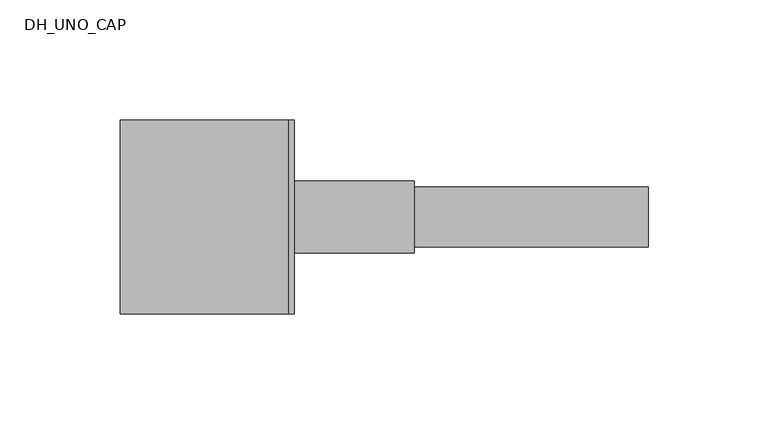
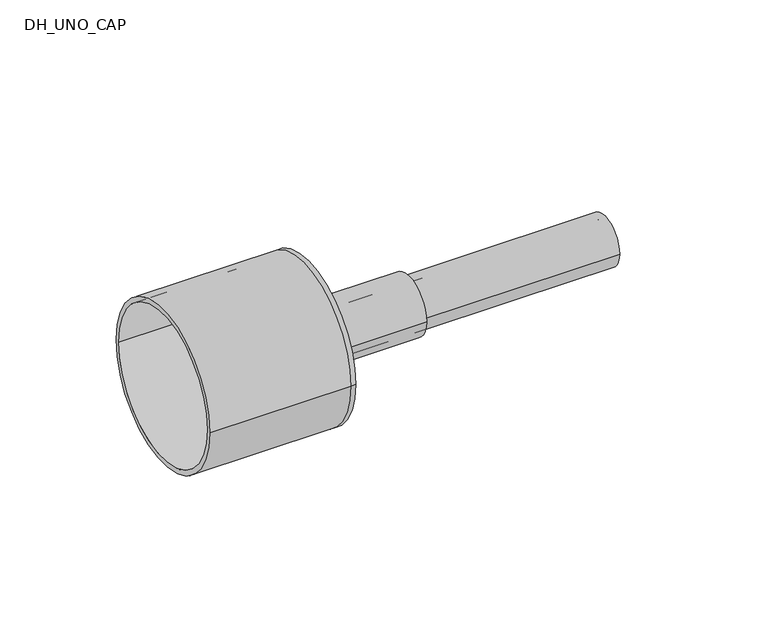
"""IFC4 building model written with IfcOpenShell, lengths in millimetres: pipe fitting geometry, DH_UNO_CAP : RAUTHERMEX UNO 7.4 DW - Schrink Cap."""

from ifc_helpers import new_model, si_unit, point, frame, origin, origin_2d, place, context, project, spatial, polyline, circle_curve, trimmed, segment, composite_curve, outline, extrude, source, transform, mapped, element, save
from ifc_brep_helpers import plane_surface, cylinder_surface, revolved_surface, advanced_brep


def dh_uno_cap_3b9207c0(model_context):
    return source(origin(), model_context, "Body", "SolidModel", [
        extrude(outline(composite_curve([segment(trimmed(circle_curve(origin_2d(), 12.5), [point((-12.5, 0.0))], [point((12.5, 0.0))], False, "CARTESIAN"), True, "CONTINUOUS"), segment(trimmed(circle_curve(origin_2d(), 12.5), [point((12.5, 0.0))], [point((-12.5, 0.0))], False, "CARTESIAN"), True, "CONTINUOUS")], self_intersect=False), holes=[composite_curve([segment(trimmed(circle_curve(origin_2d(), 9.0), [point((-9.0, 0.0))], [point((9.0, 0.0))], True, "CARTESIAN"), True, "CONTINUOUS"), segment(trimmed(circle_curve(origin_2d(), 9.0), [point((9.0, 0.0))], [point((-9.0, 0.0))], True, "CARTESIAN"), True, "CONTINUOUS")], self_intersect=False)]), frame((0.0, 0.0, 0.0), z_axis=(1.0, 0.0, 0.0), x_axis=(0.0, 1.0, 0.0)), (0.0, 0.0, 1.0), 150.0),
        advanced_brep(
        [(-70.0, -40.5, 0.0), (-70.0, 40.5, 0.0), (-70.0, -38.0, 0.0), (-70.0, 38.0, 0.0), (0.0, -38.0, 0.0), (0.0, 38.0, 0.0), (0.0, -40.5, 0.0), (0.0, 40.5, 0.0), (0.0, 12.5, 0.0), (0.0, -12.5, 0.0), (2.5, -40.5, 0.0), (2.5, 40.5, 0.0), (2.5, -12.5, 0.0), (2.5, 12.5, 0.0)],
        [
            (0, 1, circle_curve(frame((-70.0, 0.0, 0.0), z_axis=(-1.0, 0.0, 0.0), x_axis=(0.0, 1.0, 0.0)), 40.5)),
            (1, 0, circle_curve(frame((-70.0, 0.0, 0.0), z_axis=(-1.0, 0.0, 0.0), x_axis=(0.0, 1.0, 0.0)), 40.5)),
            (2, 3, circle_curve(frame((-70.0, 0.0, 0.0), z_axis=(1.0, 0.0, 0.0), x_axis=(0.0, 1.0, 0.0)), 38.0)),
            (3, 2, circle_curve(frame((-70.0, 0.0, 0.0), z_axis=(1.0, 0.0, 0.0), x_axis=(0.0, 1.0, 0.0)), 38.0)),
            (2, 4),
            (4, 5, circle_curve(frame((0.0, 0.0, 0.0), z_axis=(1.0, 0.0, 0.0), x_axis=(0.0, 1.0, 0.0)), 38.0)),
            (5, 3),
            (5, 4, circle_curve(frame((0.0, 0.0, 0.0), z_axis=(1.0, 0.0, 0.0), x_axis=(0.0, 1.0, 0.0)), 38.0)),
            (0, 6),
            (6, 7, circle_curve(frame((0.0, 0.0, 0.0), z_axis=(-1.0, 0.0, 0.0), x_axis=(0.0, 1.0, 0.0)), 40.5)),
            (7, 1),
            (7, 6, circle_curve(frame((0.0, 0.0, 0.0), z_axis=(-1.0, 0.0, 0.0), x_axis=(0.0, 1.0, 0.0)), 40.5)),
            (8, 9, circle_curve(frame((0.0, 0.0, 0.0), z_axis=(1.0, 0.0, 0.0), x_axis=(0.0, 1.0, 0.0)), 12.5)),
            (9, 8, circle_curve(frame((0.0, 0.0, 0.0), z_axis=(1.0, 0.0, 0.0), x_axis=(0.0, 1.0, 0.0)), 12.5)),
            (10, 11, circle_curve(frame((2.5, 0.0, 0.0), z_axis=(1.0, 0.0, 0.0), x_axis=(0.0, 1.0, 0.0)), 40.5)),
            (11, 10, circle_curve(frame((2.5, 0.0, 0.0), z_axis=(1.0, 0.0, 0.0), x_axis=(0.0, 1.0, 0.0)), 40.5)),
            (12, 13, circle_curve(frame((2.5, 0.0, 0.0), z_axis=(-1.0, 0.0, 0.0), x_axis=(0.0, 1.0, 0.0)), 12.5)),
            (13, 12, circle_curve(frame((2.5, 0.0, 0.0), z_axis=(-1.0, 0.0, 0.0), x_axis=(0.0, 1.0, 0.0)), 12.5)),
            (11, 7),
            (6, 10),
            (8, 13),
            (12, 9),
        ],
        [
            plane_surface(frame((-70.0, 0.0, 0.0), z_axis=(-1.0, 0.0, 0.0), x_axis=(0.0, 0.0, 1.0))),
            revolved_surface(polyline([(0.0, 38.0, 0.0), (-70.0, 38.0, 0.0)]), (-70.0, 0.0, 0.0), (1.0, 0.0, 0.0)),
            cylinder_surface(frame((-70.0, 0.0, 0.0), z_axis=(-1.0, 0.0, 0.0), x_axis=(0.0, 1.0, 0.0)), 40.5),
            plane_surface(frame((0.0, 0.0, 0.0), z_axis=(-1.0, 0.0, 0.0), x_axis=(0.0, 0.0, 1.0))),
            plane_surface(frame((2.5, 0.0, 0.0), z_axis=(1.0, 0.0, 0.0), x_axis=(0.0, 0.0, 1.0))),
            cylinder_surface(frame((0.0, 0.0, 0.0), z_axis=(-1.0, 0.0, 0.0), x_axis=(0.0, 1.0, 0.0)), 40.5),
            revolved_surface(polyline([(0.0, 12.5, 0.0), (2.5, 12.5, 0.0)]), (0.0, 0.0, 0.0), (-1.0, 0.0, 0.0)),
        ],
        [
            (0, [[1, 2], [3, 4]]),
            (1, [[-3, 5, 6, 7]]),
            (1, [[-4, -7, 8, -5]]),
            (2, [[-1, 9, 10, 11]]),
            (2, [[-2, -11, 12, -9]]),
            (3, [[-6, -8], [13, 14]]),
            (4, [[15, 16], [17, 18]]),
            (5, [[-16, 19, -10, 20]]),
            (5, [[-15, -20, -12, -19]]),
            (6, [[21, -17, 22, -13]]),
            (6, [[-21, -14, -22, -18]]),
        ],
    ),
        extrude(outline(composite_curve([segment(trimmed(circle_curve(origin_2d(), 15.0), [point((-15.0, 0.0))], [point((15.0, 0.0))], False, "CARTESIAN"), True, "CONTINUOUS"), segment(trimmed(circle_curve(origin_2d(), 15.0), [point((15.0, 0.0))], [point((-15.0, 0.0))], False, "CARTESIAN"), True, "CONTINUOUS")], self_intersect=False), holes=[composite_curve([segment(trimmed(circle_curve(origin_2d(), 12.5), [point((-12.5, 0.0))], [point((12.5, 0.0))], True, "CARTESIAN"), True, "CONTINUOUS"), segment(trimmed(circle_curve(origin_2d(), 12.5), [point((12.5, 0.0))], [point((-12.5, 0.0))], True, "CARTESIAN"), True, "CONTINUOUS")], self_intersect=False)]), frame((2.5, 0.0, 0.0), z_axis=(1.0, 0.0, 0.0), x_axis=(0.0, 1.0, 0.0)), (0.0, 0.0, 1.0), 50.0),
    ])


if __name__ == "__main__":
    model = new_model("IFC4")
    model_context = context("Model", 3, world=origin())
    ifc_project = project(units=[si_unit("LENGTHUNIT", "METRE", prefix="MILLI")], contexts=[model_context])
    site = spatial("IfcSite", under=ifc_project)
    building = spatial("IfcBuilding", under=site)
    placement = place(None, origin())
    dh_uno_cap_shape = dh_uno_cap_3b9207c0(model_context)
    element("IfcPipeFitting", 1, ObjectType="DH_UNO_CAP : RAUTHERMEX UNO 7.4 DW - Schrink Cap", at=placement, inside=building, context=model_context, shape_type="MappedRepresentation", body=[
        mapped(dh_uno_cap_shape, transform((0.0, 0.0, 0.0), x_axis=(1.0, 0.0, 0.0), y_axis=(0.0, 1.0, 0.0), z_axis=(0.0, 0.0, 1.0))),
    ])
    save(model, "model.ifc")
